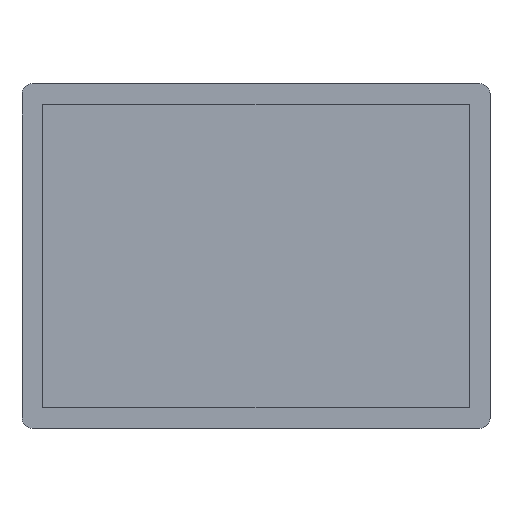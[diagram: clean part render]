
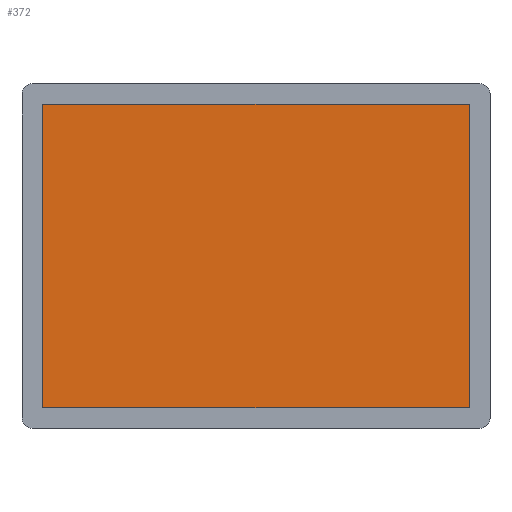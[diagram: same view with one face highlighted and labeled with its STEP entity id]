
A CAD part, top view. The second image highlights one B-rep face of the part: STEP entity #372.
In plain terms, the highlighted planar face has unit normal (0, 0, 1).
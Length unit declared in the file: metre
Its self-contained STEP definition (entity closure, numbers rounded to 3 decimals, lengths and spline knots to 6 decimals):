
#99=ORIENTED_EDGE('',*,*,#167,.F.);
#100=ORIENTED_EDGE('',*,*,#162,.T.);
#101=ORIENTED_EDGE('',*,*,#169,.T.);
#102=ORIENTED_EDGE('',*,*,#135,.F.);
#135=EDGE_CURVE('',#185,#186,#219,.T.);
#162=EDGE_CURVE('',#206,#207,#239,.T.);
#167=EDGE_CURVE('',#206,#185,#243,.T.);
#169=EDGE_CURVE('',#207,#186,#245,.T.);
#185=VERTEX_POINT('',#543);
#186=VERTEX_POINT('',#544);
#206=VERTEX_POINT('',#598);
#207=VERTEX_POINT('',#599);
#219=LINE('',#542,#259);
#239=LINE('',#597,#279);
#243=LINE('',#608,#283);
#245=LINE('',#611,#285);
#259=VECTOR('',#435,1.);
#279=VECTOR('',#483,1.);
#283=VECTOR('',#491,1.);
#285=VECTOR('',#495,1.);
#311=EDGE_LOOP('',(#99,#100,#101,#102));
#337=FACE_BOUND('',#311,.T.);
#352=PLANE('',#415);
#372=ADVANCED_FACE('',(#337),#352,.T.);
#415=AXIS2_PLACEMENT_3D('',#618,#507,#508);
#435=DIRECTION('',(0.,-1.,0.));
#483=DIRECTION('',(0.,-1.,0.));
#491=DIRECTION('',(1.,0.,0.));
#495=DIRECTION('',(1.,0.,0.));
#507=DIRECTION('',(0.,0.,1.));
#508=DIRECTION('',(1.,0.,0.));
#542=CARTESIAN_POINT('',(0.041502,0.000006,-0.00144));
#543=CARTESIAN_POINT('',(0.041502,0.029506,-0.00144));
#544=CARTESIAN_POINT('',(0.041502,-0.029494,-0.00144));
#597=CARTESIAN_POINT('',(-0.041498,0.000006,-0.00144));
#598=CARTESIAN_POINT('',(-0.041498,0.029506,-0.00144));
#599=CARTESIAN_POINT('',(-0.041498,-0.029494,-0.00144));
#608=CARTESIAN_POINT('',(0.000002,0.029506,-0.00144));
#611=CARTESIAN_POINT('',(0.000002,-0.029494,-0.00144));
#618=CARTESIAN_POINT('',(0.000002,0.000006,-0.00144));
